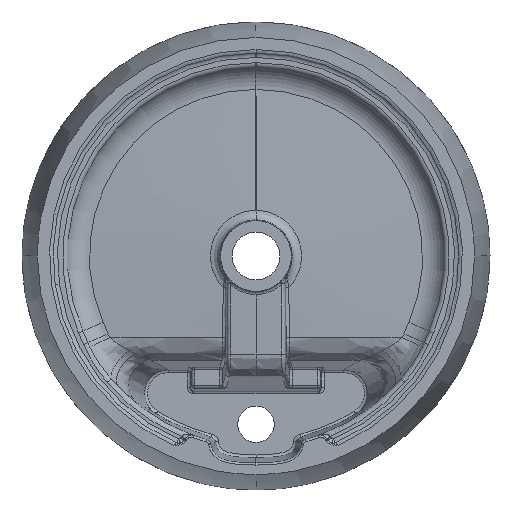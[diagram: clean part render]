
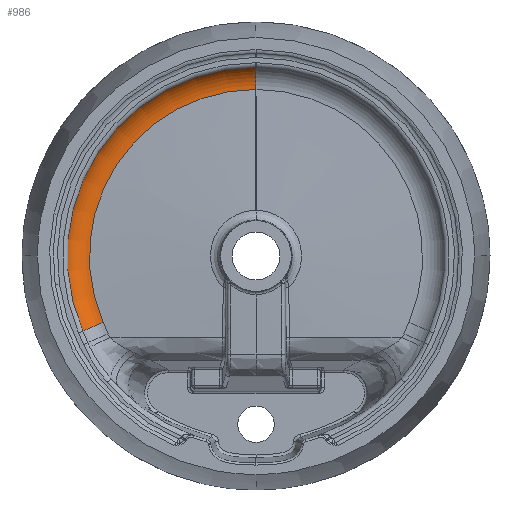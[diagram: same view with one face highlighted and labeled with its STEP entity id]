
A CAD part, front view. The second image highlights one B-rep face of the part: STEP entity #986.
In plain terms, the highlighted toroidal (fillet/blend) face has major radius 161.072 mm and minor radius 23 mm.
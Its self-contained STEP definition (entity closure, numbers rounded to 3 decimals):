
#145 = ORIENTED_EDGE ( 'NONE', *, *, #8717, .F. ) ;
#284 = CARTESIAN_POINT ( 'NONE',  ( 0., -92.235, 160.023 ) ) ;
#312 = CARTESIAN_POINT ( 'NONE',  ( 0., -92.235, 160.023 ) ) ;
#725 = CARTESIAN_POINT ( 'NONE',  ( -0.004, -92.235, -0.018 ) ) ;
#793 = DIRECTION ( 'NONE',  ( 0., 1., 0. ) ) ;
#890 = EDGE_CURVE ( 'NONE', #4751, #12164, #16032, .T. ) ;
#986 = ADVANCED_FACE ( 'NONE', ( #11029 ), #4075, .F. ) ;
#1011 = CARTESIAN_POINT ( 'NONE',  ( -146.797, -92.235, -63.775 ) ) ;
#1380 = CARTESIAN_POINT ( 'NONE',  ( 0., -97.617, 176.022 ) ) ;
#1503 = AXIS2_PLACEMENT_3D ( 'NONE', #1727, #13070, #1559 ) ;
#1559 = DIRECTION ( 'NONE',  ( 0., 0., 1. ) ) ;
#1727 = CARTESIAN_POINT ( 'NONE',  ( -0.004, -104.359, -0.018 ) ) ;
#2981 = CARTESIAN_POINT ( 'NONE',  ( 0., -104.359, 181.332 ) ) ;
#3084 = EDGE_CURVE ( 'NONE', #4574, #4751, #3167, .T. ) ;
#3167 = CIRCLE ( 'NONE', #5607, 23. ) ;
#3243 = DIRECTION ( 'NONE',  ( 0., -1., 0. ) ) ;
#3575 = CIRCLE ( 'NONE', #15211, 160.041 ) ;
#4075 = TOROIDAL_SURFACE ( 'NONE', #6246, 161.072, 23. ) ;
#4344 = ORIENTED_EDGE ( 'NONE', *, *, #5310, .T. ) ;
#4518 = DIRECTION ( 'NONE',  ( 0., 0., 1. ) ) ;
#4574 = VERTEX_POINT ( 'NONE', #1011 ) ;
#4751 = VERTEX_POINT ( 'NONE', #15048 ) ;
#5310 = EDGE_CURVE ( 'NONE', #11204, #12164, #11902, .T. ) ;
#5339 = ORIENTED_EDGE ( 'NONE', *, *, #890, .F. ) ;
#5607 = AXIS2_PLACEMENT_3D ( 'NONE', #10712, #14369, #13083 ) ;
#6246 = AXIS2_PLACEMENT_3D ( 'NONE', #9927, #793, #6972 ) ;
#6377 = CARTESIAN_POINT ( 'NONE',  ( 0., -94.155, 170.555 ) ) ;
#6623 = CARTESIAN_POINT ( 'NONE',  ( 0., -96.287, 174.3 ) ) ;
#6972 = DIRECTION ( 'NONE',  ( 0., 0., 1. ) ) ;
#8717 = EDGE_CURVE ( 'NONE', #11204, #4574, #3575, .T. ) ;
#9927 = CARTESIAN_POINT ( 'NONE',  ( -0.004, -115.212, -0.018 ) ) ;
#10712 = CARTESIAN_POINT ( 'NONE',  ( -147.742, -115.212, -64.186 ) ) ;
#11029 = FACE_OUTER_BOUND ( 'NONE', #13341, .T. ) ;
#11204 = VERTEX_POINT ( 'NONE', #312 ) ;
#11776 = CARTESIAN_POINT ( 'NONE',  ( 0., -92.346, 164.342 ) ) ;
#11902 = B_SPLINE_CURVE_WITH_KNOTS ( 'NONE', 3,
 ( #284, #14251, #11776, #12801, #6377, #6623, #1380, #16708, #15443, #14087 ),
 .UNSPECIFIED., .F., .F.,
 ( 4, 2, 2, 2, 4 ),
 ( 0., 0.25, 0.5, 0.75, 1. ),
 .UNSPECIFIED. ) ;
#12164 = VERTEX_POINT ( 'NONE', #2981 ) ;
#12801 = CARTESIAN_POINT ( 'NONE',  ( 0., -93.355, 168.531 ) ) ;
#13070 = DIRECTION ( 'NONE',  ( 0., 1., 0. ) ) ;
#13083 = DIRECTION ( 'NONE',  ( 0.917, 0., 0.398 ) ) ;
#13341 = EDGE_LOOP ( 'NONE', ( #4344, #5339, #15668, #145 ) ) ;
#14087 = CARTESIAN_POINT ( 'NONE',  ( 0., -104.359, 181.332 ) ) ;
#14251 = CARTESIAN_POINT ( 'NONE',  ( 0., -92.138, 162.176 ) ) ;
#14369 = DIRECTION ( 'NONE',  ( -0.398, 0., 0.917 ) ) ;
#15048 = CARTESIAN_POINT ( 'NONE',  ( -166.342, -104.359, -72.264 ) ) ;
#15211 = AXIS2_PLACEMENT_3D ( 'NONE', #725, #3243, #4518 ) ;
#15443 = CARTESIAN_POINT ( 'NONE',  ( 0., -102.459, 180.315 ) ) ;
#15668 = ORIENTED_EDGE ( 'NONE', *, *, #3084, .F. ) ;
#16032 = CIRCLE ( 'NONE', #1503, 181.35 ) ;
#16708 = CARTESIAN_POINT ( 'NONE',  ( 0., -100.704, 179.03 ) ) ;
